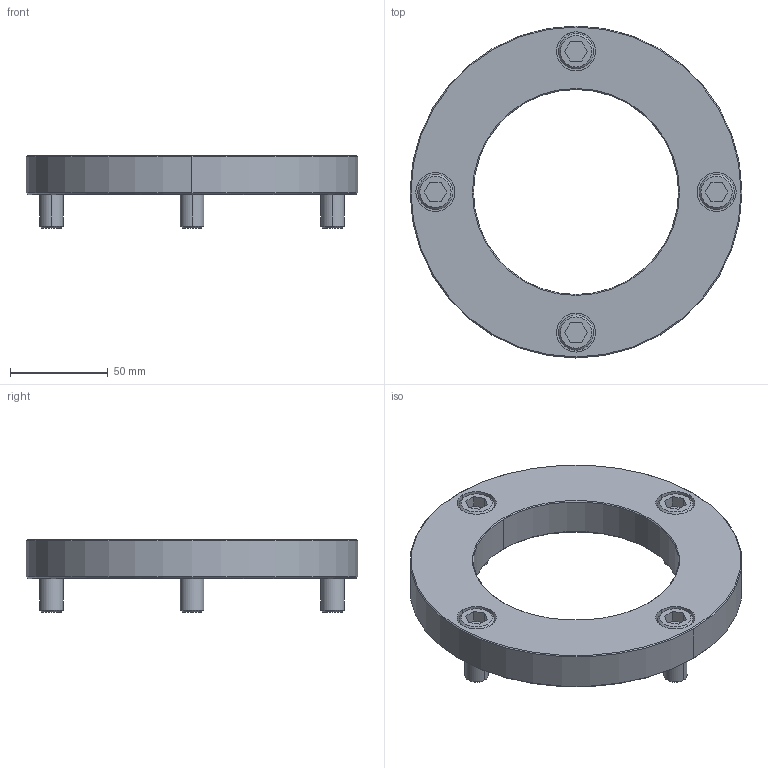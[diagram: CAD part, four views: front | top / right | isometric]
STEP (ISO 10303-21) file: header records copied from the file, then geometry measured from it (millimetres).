
FILE_DESCRIPTION((''),'2;1');
FILE_NAME('','2010-08-30T17:31:26+09:00',('misumi'),(''),'M/STEP i/f 1R2-14','CADmeister v5.1','');
FILE_SCHEMA(('AUTOMOTIVE_DESIGN'));
Length unit declared in the file: millimetre
Products named in the file (1): KEB100-20-N
Bounding box: 170 x 170 x 37 mm (x, y, z)
Volume: 281499.9 mm3; surface area: 56909.6 mm2
Topology: 5 solids, 5 shells, 106 faces, 228 edges, 144 vertices
Faces by surface type: plane 46, cylinder 36, cone 24
Entity records: 3030 total; most frequent: DIRECTION 538, CARTESIAN_POINT 479, ORIENTED_EDGE 456, EDGE_CURVE 228, AXIS2_PLACEMENT_3D 203, VERTEX_POINT 144, LINE 132, VECTOR 132
